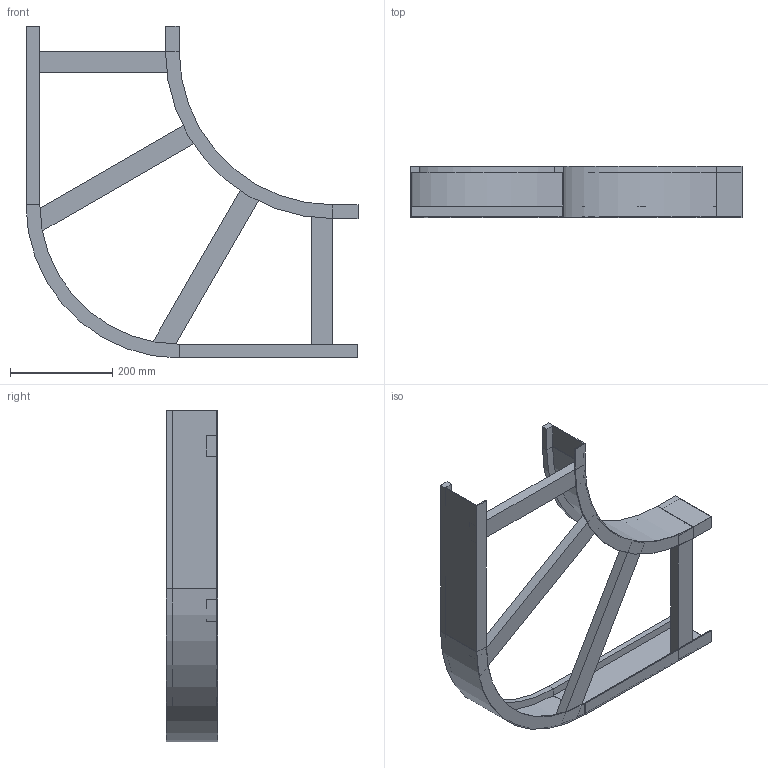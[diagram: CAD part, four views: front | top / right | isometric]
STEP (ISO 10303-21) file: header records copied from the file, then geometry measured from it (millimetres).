
FILE_DESCRIPTION (( 'STEP AP214' ), '1' );
FILE_NAME ('B2_10B3D300.step', '2025-02-21T15:23:26', ( '' ), ( '' ), 'SwSTEP 2.0', 'SolidWorks 2023', '' );
FILE_SCHEMA (( 'AUTOMOTIVE_DESIGN' ));
Length unit declared in the file: millimetre
Products named in the file (5): B2_LONGH.INTERNO 90°_H100_R300; TRAVERSINO_400_SCANTONATO; TRAVERSINO_300; B2_LONGH.ESTERNO 90°_H100_R300+300; B2_10B3D300
Assembly tree (6 placements, depth 2):
  B2_10B3D300
    B2_LONGH.INTERNO 90°_H100_R300
    B2_LONGH.ESTERNO 90°_H100_R300+300
    TRAVERSINO_300  x2
    TRAVERSINO_400_SCANTONATO  x2
Bounding box: 650 x 100 x 650 mm (x, y, z)
Volume: 1871775.2 mm3; surface area: 671278.5 mm2
Topology: 6 solids, 6 shells, 76 faces, 160 edges, 96 vertices
Faces by surface type: plane 68, cylinder 8
Entity records: 1830 total; most frequent: DIRECTION 298, CARTESIAN_POINT 289, ORIENTED_EDGE 272, EDGE_CURVE 136, VECTOR 120, LINE 120, AXIS2_PLACEMENT_3D 89, VERTEX_POINT 80
